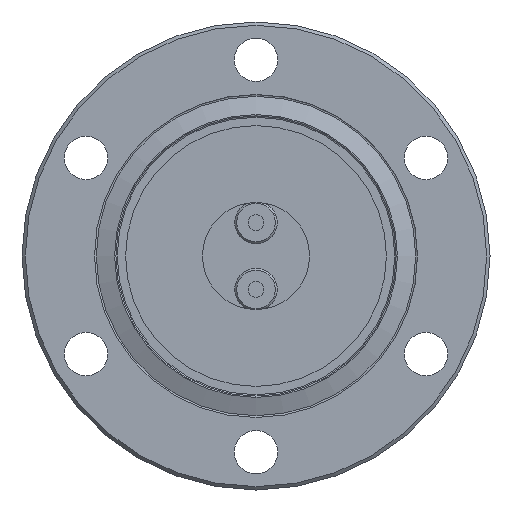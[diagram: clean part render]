
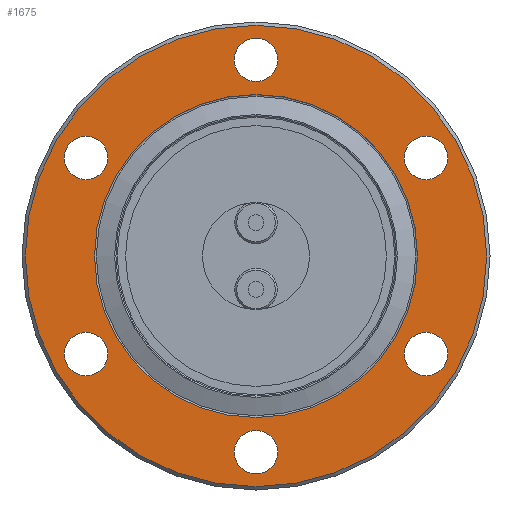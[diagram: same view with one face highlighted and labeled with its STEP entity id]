
A CAD part, front view. The second image highlights one B-rep face of the part: STEP entity #1675.
In plain terms, the highlighted planar face has unit normal (0, -1, 0).
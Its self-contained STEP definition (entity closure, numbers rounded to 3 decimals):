
#105=FACE_BOUND('',#467,.T.);
#106=FACE_BOUND('',#468,.T.);
#107=FACE_BOUND('',#469,.T.);
#108=FACE_BOUND('',#470,.T.);
#109=FACE_BOUND('',#471,.T.);
#110=FACE_BOUND('',#472,.T.);
#111=FACE_BOUND('',#473,.T.);
#152=PLANE('',#1940);
#308=FACE_OUTER_BOUND('',#466,.T.);
#466=EDGE_LOOP('',(#1476));
#467=EDGE_LOOP('',(#1477));
#468=EDGE_LOOP('',(#1478));
#469=EDGE_LOOP('',(#1479));
#470=EDGE_LOOP('',(#1480));
#471=EDGE_LOOP('',(#1481));
#472=EDGE_LOOP('',(#1482));
#473=EDGE_LOOP('',(#1483));
#750=CIRCLE('',#1939,34.5);
#751=CIRCLE('',#1941,3.25);
#752=CIRCLE('',#1942,3.25);
#753=CIRCLE('',#1943,3.25);
#754=CIRCLE('',#1944,3.25);
#755=CIRCLE('',#1945,3.25);
#756=CIRCLE('',#1946,3.25);
#757=CIRCLE('',#1947,24.15);
#894=VERTEX_POINT('',#2981);
#895=VERTEX_POINT('',#2985);
#896=VERTEX_POINT('',#2987);
#897=VERTEX_POINT('',#2989);
#898=VERTEX_POINT('',#2991);
#899=VERTEX_POINT('',#2993);
#900=VERTEX_POINT('',#2995);
#901=VERTEX_POINT('',#2997);
#1092=EDGE_CURVE('',#894,#894,#750,.T.);
#1094=EDGE_CURVE('',#895,#895,#751,.T.);
#1095=EDGE_CURVE('',#896,#896,#752,.T.);
#1096=EDGE_CURVE('',#897,#897,#753,.T.);
#1097=EDGE_CURVE('',#898,#898,#754,.T.);
#1098=EDGE_CURVE('',#899,#899,#755,.T.);
#1099=EDGE_CURVE('',#900,#900,#756,.T.);
#1100=EDGE_CURVE('',#901,#901,#757,.T.);
#1476=ORIENTED_EDGE('',*,*,#1092,.F.);
#1477=ORIENTED_EDGE('',*,*,#1094,.T.);
#1478=ORIENTED_EDGE('',*,*,#1095,.T.);
#1479=ORIENTED_EDGE('',*,*,#1096,.T.);
#1480=ORIENTED_EDGE('',*,*,#1097,.T.);
#1481=ORIENTED_EDGE('',*,*,#1098,.T.);
#1482=ORIENTED_EDGE('',*,*,#1099,.T.);
#1483=ORIENTED_EDGE('',*,*,#1100,.T.);
#1675=ADVANCED_FACE('',(#308,#105,#106,#107,#108,#109,#110,#111),#152,.F.);
#1939=AXIS2_PLACEMENT_3D('',#2982,#2483,#2484);
#1940=AXIS2_PLACEMENT_3D('',#2984,#2486,#2487);
#1941=AXIS2_PLACEMENT_3D('',#2986,#2488,#2489);
#1942=AXIS2_PLACEMENT_3D('',#2988,#2490,#2491);
#1943=AXIS2_PLACEMENT_3D('',#2990,#2492,#2493);
#1944=AXIS2_PLACEMENT_3D('',#2992,#2494,#2495);
#1945=AXIS2_PLACEMENT_3D('',#2994,#2496,#2497);
#1946=AXIS2_PLACEMENT_3D('',#2996,#2498,#2499);
#1947=AXIS2_PLACEMENT_3D('',#2998,#2500,#2501);
#2483=DIRECTION('center_axis',(0.,1.,0.));
#2484=DIRECTION('ref_axis',(-0.866,0.,0.5));
#2486=DIRECTION('center_axis',(0.,1.,0.));
#2487=DIRECTION('ref_axis',(0.5,0.,0.866));
#2488=DIRECTION('center_axis',(0.,1.,0.));
#2489=DIRECTION('ref_axis',(-0.866,0.,0.5));
#2490=DIRECTION('center_axis',(0.,1.,0.));
#2491=DIRECTION('ref_axis',(-0.866,0.,0.5));
#2492=DIRECTION('center_axis',(0.,1.,0.));
#2493=DIRECTION('ref_axis',(-0.866,0.,0.5));
#2494=DIRECTION('center_axis',(0.,1.,0.));
#2495=DIRECTION('ref_axis',(-0.866,0.,0.5));
#2496=DIRECTION('center_axis',(0.,1.,0.));
#2497=DIRECTION('ref_axis',(-0.866,0.,0.5));
#2498=DIRECTION('center_axis',(0.,1.,0.));
#2499=DIRECTION('ref_axis',(-0.866,0.,0.5));
#2500=DIRECTION('center_axis',(0.,1.,0.));
#2501=DIRECTION('ref_axis',(1.,0.,0.));
#2981=CARTESIAN_POINT('',(29.878,0.,-17.25));
#2982=CARTESIAN_POINT('Origin',(0.,0.,
0.));
#2984=CARTESIAN_POINT('Origin',(30.138,0.,-17.4));
#2985=CARTESIAN_POINT('',(-22.603,0.,13.05));
#2986=CARTESIAN_POINT('Origin',(-25.418,0.,
14.675));
#2987=CARTESIAN_POINT('',(28.232,0.,13.05));
#2988=CARTESIAN_POINT('Origin',(25.418,0.,
14.675));
#2989=CARTESIAN_POINT('',(28.232,0.,-16.3));
#2990=CARTESIAN_POINT('Origin',(25.418,0.,
-14.675));
#2991=CARTESIAN_POINT('',(-22.603,0.,-16.3));
#2992=CARTESIAN_POINT('Origin',(-25.418,0.,
-14.675));
#2993=CARTESIAN_POINT('',(2.815,0.,27.725));
#2994=CARTESIAN_POINT('Origin',(0.,0.,
29.35));
#2995=CARTESIAN_POINT('',(2.815,0.,-30.975));
#2996=CARTESIAN_POINT('Origin',(0.,0.,
-29.35));
#2997=CARTESIAN_POINT('',(-24.15,0.,0.));
#2998=CARTESIAN_POINT('Origin',(0.,0.,
0.));
